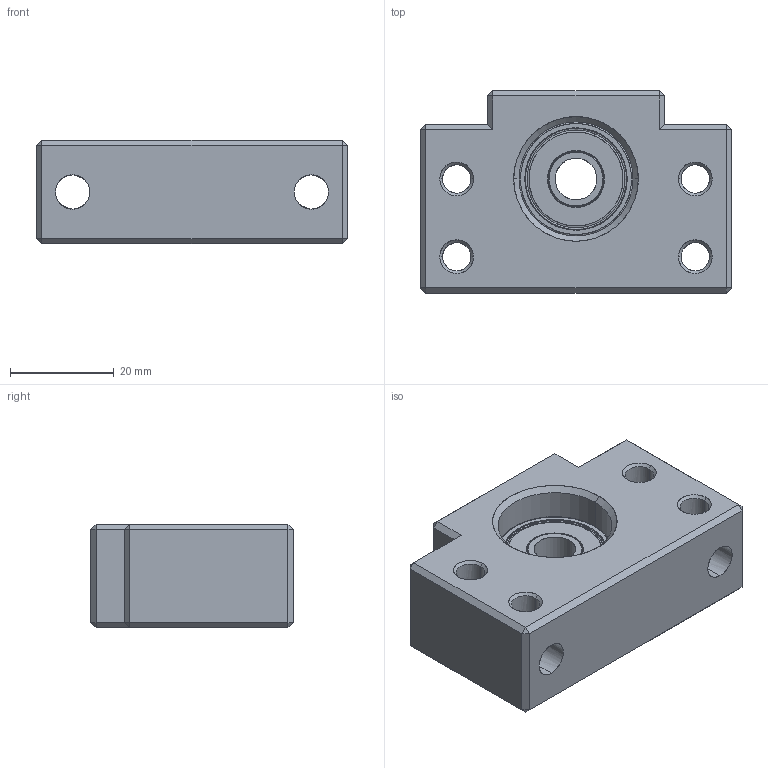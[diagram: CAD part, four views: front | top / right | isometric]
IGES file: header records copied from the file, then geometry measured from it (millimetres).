
Start section: SolidWorks IGES file using analytic representation for surfaces
Bounding box: 60 x 39 x 20 mm (x, y, z)
Surface area: 11584.2 mm2 (no closed solid volume)
Topology: 0 solids, 0 shells, 146 faces, 2220 edges, 2220 vertices
Faces by surface type: bspline 82, revolution 64
